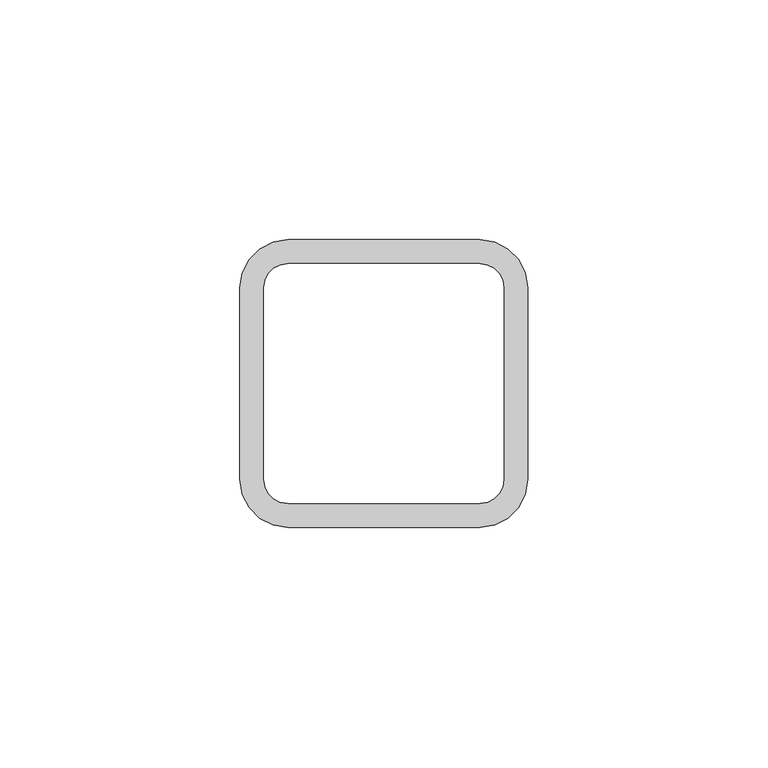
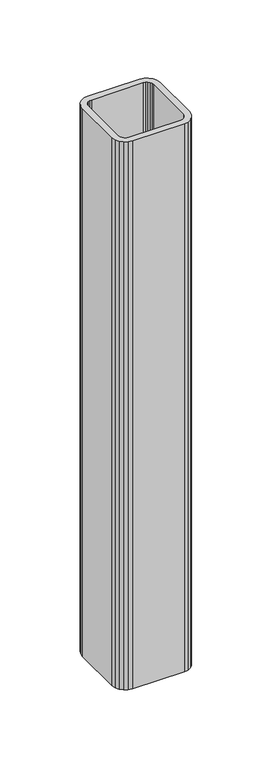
"""IFC4 building model written with IfcOpenShell, lengths in millimetres: beam geometry,  87542 :  87542."""

from ifc_helpers import new_model, si_unit, frame, origin, place, context, project, spatial, polyline, outline, extrude, source, transform, mapped, element, save


def beam_81fba2e1(model_context):
    return source(origin(), model_context, "Body", "SweptSolid", [
        extrude(outline(polyline([(-100.0000001, -24956.0), (-100.0000001, -24916.0), (-99.5105653, -24912.9098301), (-98.0901701, -24910.1221475), (-95.8778527, -24907.9098301), (-93.0901701, -24906.4894348), (-90.0000001, -24906.0), (-50.0000001, -24906.0), (-46.9098302, -24906.4894348), (-44.1221476, -24907.9098301), (-41.9098302, -24910.1221475), (-40.489435, -24912.9098301), (-40.0000001, -24916.0), (-40.0000001, -24956.0), (-40.489435, -24959.0901699), (-41.9098302, -24961.8778525), (-44.1221476, -24964.0901699), (-46.9098302, -24965.5105652), (-50.0000001, -24966.0), (-90.0000001, -24966.0), (-93.0901701, -24965.5105652), (-95.8778527, -24964.0901699), (-98.0901701, -24961.8778525), (-99.5105653, -24959.0901699), (-100.0000001, -24956.0)]), holes=[polyline([(-90.0000001, -24961.0), (-50.0000001, -24961.0), (-48.4549152, -24960.7552826), (-47.0610739, -24960.045085), (-45.9549152, -24958.9389263), (-45.2447175, -24957.545085), (-45.0000001, -24956.0), (-45.0000001, -24916.0), (-45.2447175, -24914.454915), (-45.9549152, -24913.0610737), (-47.0610739, -24911.954915), (-48.4549152, -24911.2447174), (-50.0000001, -24911.0), (-90.0000001, -24911.0), (-91.5450851, -24911.2447174), (-92.9389264, -24911.954915), (-94.0450851, -24913.0610737), (-94.7552827, -24914.454915), (-95.0000001, -24916.0), (-95.0000001, -24956.0), (-94.7552827, -24957.545085), (-94.0450851, -24958.9389263), (-92.9389264, -24960.045085), (-91.5450851, -24960.7552826), (-90.0000001, -24961.0)])]), frame((0.0, 0.0, 7970.0), z_axis=(0.0, 0.0, 1.0), x_axis=(1.0, 0.0, 0.0)), (0.0, 0.0, 1.0), 447.0),
    ])


if __name__ == "__main__":
    model = new_model("IFC4")
    model_context = context("Model", 3, world=origin())
    ifc_project = project(units=[si_unit("LENGTHUNIT", "METRE", prefix="MILLI")], contexts=[model_context])
    site = spatial("IfcSite", under=ifc_project)
    building = spatial("IfcBuilding", under=site)
    placement = place(None, origin())
    beam_shape = beam_81fba2e1(model_context)
    element("IfcBeam", 1, ObjectType=" 87542 :  87542", at=placement, inside=building, context=model_context, shape_type="MappedRepresentation", body=[
        mapped(beam_shape, transform((0.0, 0.0, 0.0), x_axis=(1.0, 0.0, 0.0), y_axis=(0.0, 1.0, 0.0), z_axis=(0.0, 0.0, 1.0))),
    ])
    save(model, "model.ifc")
